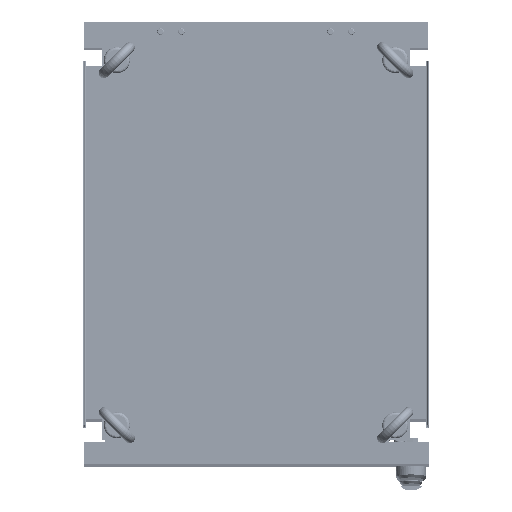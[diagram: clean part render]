
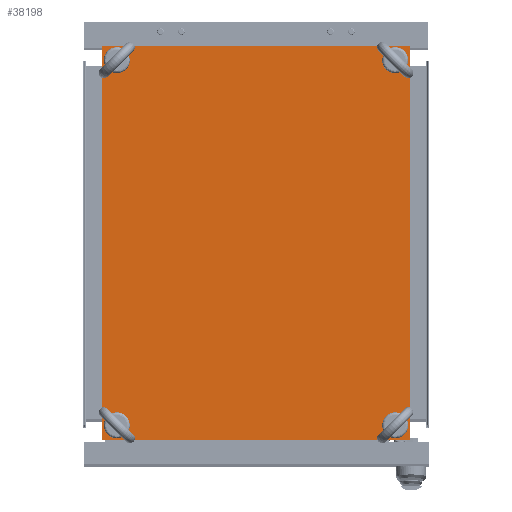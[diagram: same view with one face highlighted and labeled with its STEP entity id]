
A CAD part, top view. The second image highlights one B-rep face of the part: STEP entity #38198.
In plain terms, the highlighted planar face has unit normal (0, 0, 1).
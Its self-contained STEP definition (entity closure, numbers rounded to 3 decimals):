
#65=VERTEX_LOOP('',#27558);
#66=VERTEX_LOOP('',#27559);
#67=VERTEX_LOOP('',#27560);
#68=VERTEX_LOOP('',#27561);
#4779=LINE('',#61671,#8876);
#4780=LINE('',#61674,#8877);
#4781=LINE('',#61676,#8878);
#4782=LINE('',#61678,#8879);
#8876=VECTOR('',#50870,1000.);
#8877=VECTOR('',#50871,1000.);
#8878=VECTOR('',#50872,1000.);
#8879=VECTOR('',#50873,1000.);
#17534=ORIENTED_EDGE('',*,*,#23687,.F.);
#17535=ORIENTED_EDGE('',*,*,#23688,.F.);
#17536=ORIENTED_EDGE('',*,*,#23689,.F.);
#17537=ORIENTED_EDGE('',*,*,#23690,.F.);
#17538=ORIENTED_EDGE('',*,*,#23691,.F.);
#17539=ORIENTED_EDGE('',*,*,#23692,.F.);
#17540=ORIENTED_EDGE('',*,*,#23693,.F.);
#17541=ORIENTED_EDGE('',*,*,#23694,.F.);
#23687=EDGE_CURVE('',#27554,#27554,#28885,.T.);
#23688=EDGE_CURVE('',#27555,#27555,#28886,.T.);
#23689=EDGE_CURVE('',#27556,#27556,#28887,.T.);
#23690=EDGE_CURVE('',#27557,#27557,#28888,.T.);
#23691=EDGE_CURVE('',#27562,#27563,#4779,.T.);
#23692=EDGE_CURVE('',#27564,#27562,#4780,.T.);
#23693=EDGE_CURVE('',#27565,#27564,#4781,.T.);
#23694=EDGE_CURVE('',#27563,#27565,#4782,.T.);
#27554=VERTEX_POINT('',#61660);
#27555=VERTEX_POINT('',#61662);
#27556=VERTEX_POINT('',#61664);
#27557=VERTEX_POINT('',#61666);
#27558=VERTEX_POINT('',#61667);
#27559=VERTEX_POINT('',#61668);
#27560=VERTEX_POINT('',#61669);
#27561=VERTEX_POINT('',#61670);
#27562=VERTEX_POINT('',#61672);
#27563=VERTEX_POINT('',#61673);
#27564=VERTEX_POINT('',#61675);
#27565=VERTEX_POINT('',#61677);
#28885=CIRCLE('',#42500,6.5);
#28886=CIRCLE('',#42501,6.5);
#28887=CIRCLE('',#42502,6.5);
#28888=CIRCLE('',#42503,6.5);
#31576=EDGE_LOOP('',(#17534));
#31577=EDGE_LOOP('',(#17535));
#31578=EDGE_LOOP('',(#17536));
#31579=EDGE_LOOP('',(#17537));
#31580=EDGE_LOOP('',(#17538,#17539,#17540,#17541));
#34661=FACE_BOUND('',#31576,.T.);
#34662=FACE_BOUND('',#31577,.T.);
#34663=FACE_BOUND('',#31578,.T.);
#34664=FACE_BOUND('',#31579,.T.);
#34665=FACE_BOUND('',#65,.T.);
#34666=FACE_BOUND('',#66,.T.);
#34667=FACE_BOUND('',#67,.T.);
#34668=FACE_BOUND('',#68,.T.);
#34669=FACE_BOUND('',#31580,.T.);
#36444=PLANE('',#42499);
#38198=ADVANCED_FACE('',(#34661,#34662,#34663,#34664,#34665,#34666,#34667,
#34668,#34669),#36444,.F.);
#42499=AXIS2_PLACEMENT_3D('',#61658,#50860,#50861);
#42500=AXIS2_PLACEMENT_3D('',#61659,#50862,#50863);
#42501=AXIS2_PLACEMENT_3D('',#61661,#50864,#50865);
#42502=AXIS2_PLACEMENT_3D('',#61663,#50866,#50867);
#42503=AXIS2_PLACEMENT_3D('',#61665,#50868,#50869);
#50860=DIRECTION('',(0.,0.,-1.));
#50861=DIRECTION('',(-1.,0.,0.));
#50862=DIRECTION('',(0.,0.,1.));
#50863=DIRECTION('',(1.,0.,0.));
#50864=DIRECTION('',(0.,0.,1.));
#50865=DIRECTION('',(1.,0.,0.));
#50866=DIRECTION('',(0.,0.,1.));
#50867=DIRECTION('',(1.,0.,0.));
#50868=DIRECTION('',(0.,0.,1.));
#50869=DIRECTION('',(1.,0.,0.));
#50870=DIRECTION('',(-1.,0.,0.));
#50871=DIRECTION('',(0.,-1.,0.));
#50872=DIRECTION('',(1.,0.,0.));
#50873=DIRECTION('',(0.,1.,0.));
#61658=CARTESIAN_POINT('',(0.,0.,0.));
#61659=CARTESIAN_POINT('',(160.5,210.5,0.));
#61660=CARTESIAN_POINT('',(167.,210.5,0.));
#61661=CARTESIAN_POINT('',(-160.5,210.5,0.));
#61662=CARTESIAN_POINT('',(-154.,210.5,0.));
#61663=CARTESIAN_POINT('',(160.5,-210.5,0.));
#61664=CARTESIAN_POINT('',(167.,-210.5,0.));
#61665=CARTESIAN_POINT('',(-160.5,-210.5,0.));
#61666=CARTESIAN_POINT('',(-154.,-210.5,0.));
#61667=CARTESIAN_POINT('',(-174.2,-224.201,0.));
#61668=CARTESIAN_POINT('',(174.201,-224.201,0.));
#61669=CARTESIAN_POINT('',(-174.201,224.201,0.));
#61670=CARTESIAN_POINT('',(174.2,224.201,0.));
#61671=CARTESIAN_POINT('',(177.,-227.,0.));
#61672=CARTESIAN_POINT('',(177.,-227.,0.));
#61673=CARTESIAN_POINT('',(-177.,-227.,0.));
#61674=CARTESIAN_POINT('',(177.,227.,0.));
#61675=CARTESIAN_POINT('',(177.,227.,0.));
#61676=CARTESIAN_POINT('',(-177.,227.,0.));
#61677=CARTESIAN_POINT('',(-177.,227.,0.));
#61678=CARTESIAN_POINT('',(-177.,-227.,0.));
